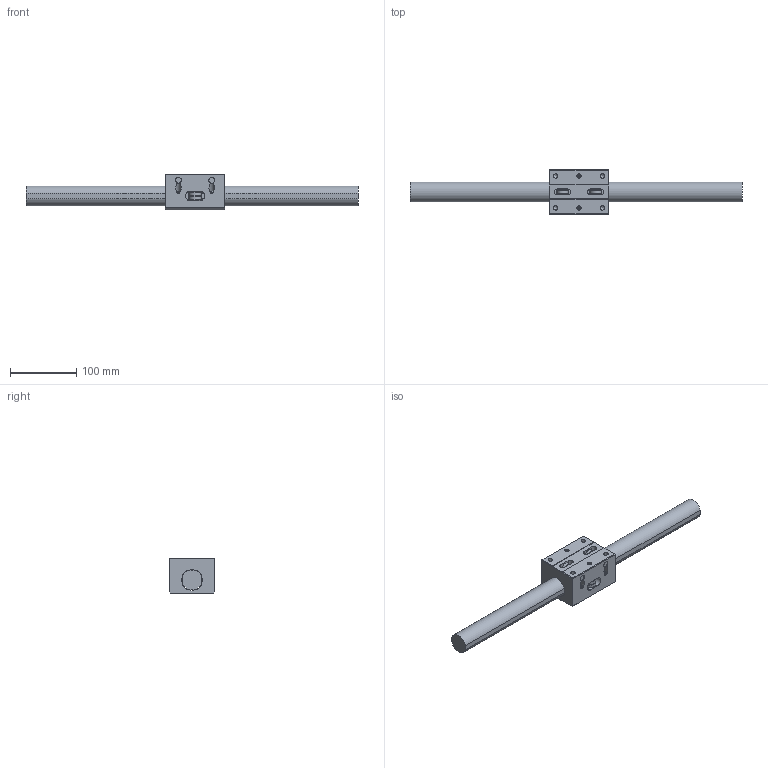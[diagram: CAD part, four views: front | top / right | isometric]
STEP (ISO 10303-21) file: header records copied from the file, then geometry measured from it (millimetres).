
FILE_DESCRIPTION((''),'2;1');
FILE_NAME('D:\製品 (図面)\カタログ用3D\リニアガイド関連\STEP形式\LT\LT30.stp','2010-06-02T16:05:25',('Tsuchiya'),(''),'Autodesk Inventor 10','Autodesk Inventor 10','');
FILE_SCHEMA(('AUTOMOTIVE_DESIGN { 1 0 10303 214 1 1 1 1 }'));
Length unit declared in the file: millimetre
Products named in the file (3): LT30; LT301; LT302
Assembly tree (2 placements, depth 2):
  LT30
    LT301
    LT302
Bounding box: 500 x 68 x 54 mm (x, y, z)
Volume: 580274.2 mm3; surface area: 100246.1 mm2
Topology: 2 solids, 2 shells, 239 faces, 558 edges, 360 vertices
Faces by surface type: bspline 97, plane 75, cylinder 37, cone 26, torus 4
Full cylindrical faces by diameter (mm): 5 x1, 5.5 x1, 6 x3, 6.5 x1, 6.647 x2, 7 x3, 8 x5, 9 x4, 17 x3, 19 x4, 32 x1
Entity records: 7284 total; most frequent: CARTESIAN_POINT 2767, ORIENTED_EDGE 820, DIRECTION 804, EDGE_CURVE 410, EDGE_LOOP 406, VERTEX_POINT 316, AXIS2_PLACEMENT_3D 309, FACE_OUTER_BOUND 239
